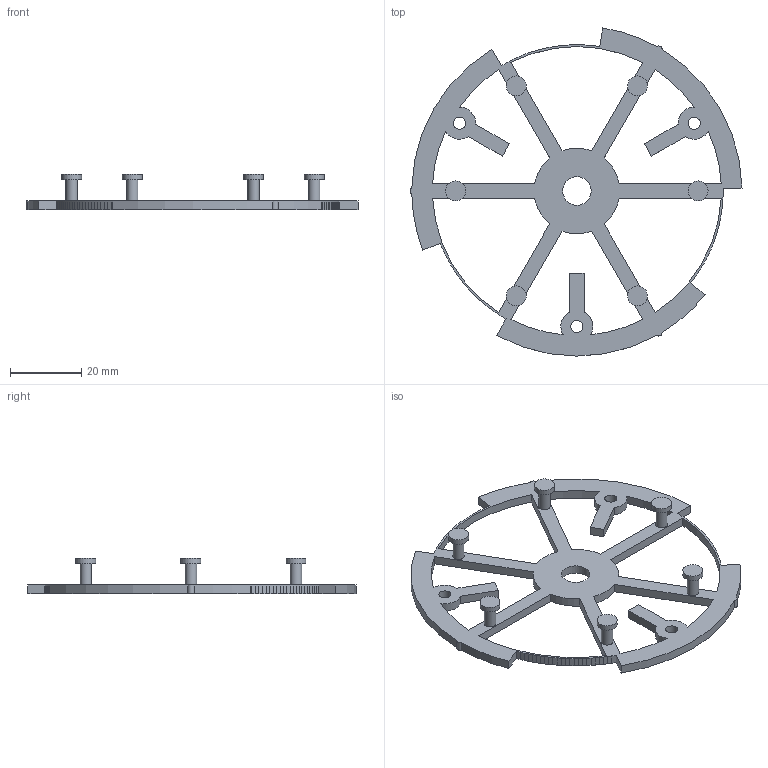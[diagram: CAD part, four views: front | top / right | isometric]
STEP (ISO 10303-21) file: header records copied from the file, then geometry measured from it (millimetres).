
FILE_DESCRIPTION(('Open CASCADE Model'),'2;1');
FILE_NAME('Open CASCADE Shape Model','2026-11-11T19:28:17',('Author'),( 'Open CASCADE'),'Open CASCADE STEP processor 7.9','Open CASCADE 7.9' ,'Unknown');
FILE_SCHEMA(('AUTOMOTIVE_DESIGN { 1 0 10303 214 1 1 1 1 }'));
Length unit declared in the file: millimetre
Products named in the file (1): Open CASCADE STEP translator 7.9 6
Bounding box: 93.09 x 92.03 x 10 mm (x, y, z)
Volume: 6621.9 mm3; surface area: 8343.5 mm2
Topology: 1 solids, 1 shells, 159 faces, 435 edges, 290 vertices
Faces by surface type: plane 113, cylinder 46
Full cylindrical faces by diameter (mm): 3.2 x6, 3.4 x3, 5.6 x6, 8 x1
Entity records: 10777 total; most frequent: CARTESIAN_POINT 1857, DIRECTION 1700, LINE 1121, VECTOR 1121, ORIENTED_EDGE 870, PCURVE 870, DEFINITIONAL_REPRESENTATION 870, EDGE_CURVE 435
